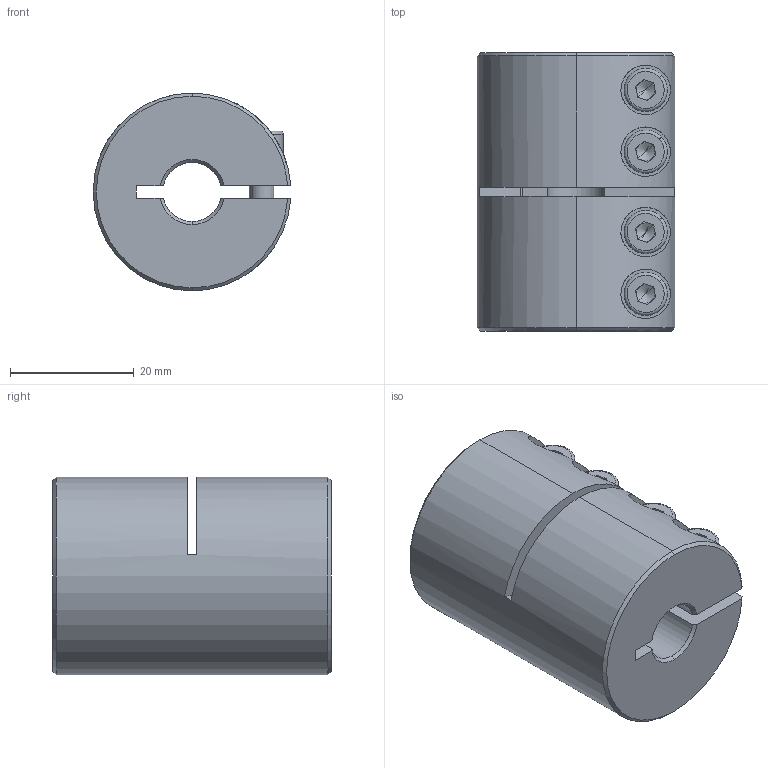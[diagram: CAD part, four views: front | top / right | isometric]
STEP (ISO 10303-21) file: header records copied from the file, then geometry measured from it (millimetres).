
FILE_DESCRIPTION (( 'STEP AP214' ), '1' );
FILE_NAME ('LL-B-D32L45-9.525-9.525½¨Ä£.STEP', '2022-07-21T07:03:10', ( '' ), ( '' ), 'SwSTEP 2.0', 'SolidWorks 2022', '' );
FILE_SCHEMA (( 'AUTOMOTIVE_DESIGN' ));
Length unit declared in the file: millimetre
Products named in the file (1): LL-B-D32L45-9.525-9.525膘耀
Bounding box: 31.97 x 45 x 32 mm (x, y, z)
Volume: 30347.7 mm3; surface area: 10745.2 mm2
Topology: 1 solids, 1 shells, 188 faces, 477 edges, 299 vertices
Faces by surface type: plane 86, cylinder 74, cone 20, torus 8
Entity records: 6186 total; most frequent: CARTESIAN_POINT 1553, DIRECTION 1006, ORIENTED_EDGE 938, EDGE_CURVE 469, AXIS2_PLACEMENT_3D 392, VERTEX_POINT 299, LINE 222, VECTOR 222
